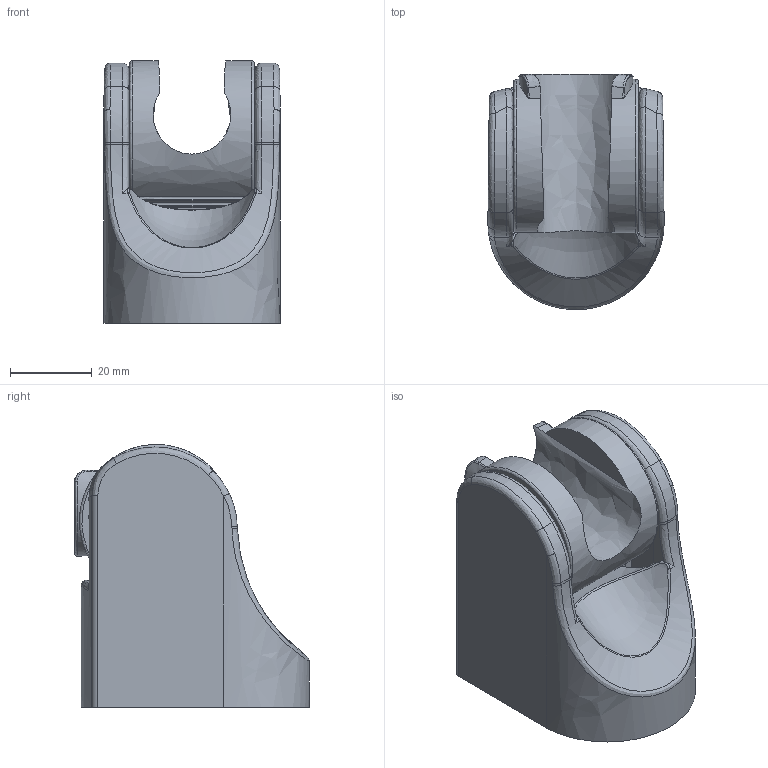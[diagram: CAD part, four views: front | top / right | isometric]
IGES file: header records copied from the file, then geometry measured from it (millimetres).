
Global section: file name: 08ace95d-f458-45aa-905f-95f379404092; native system: unknown; preprocessor: unknown; author: unknown; organization: unknown; date: 20191214.155117; units: millimetre
Bounding box: 43.2 x 57.59 x 64.43 mm (x, y, z)
Volume: 43245.7 mm3; surface area: 39822.8 mm2
Topology: 3 solids, 3 shells, 482 faces, 1309 edges, 811 vertices
Faces by surface type: bspline 482
